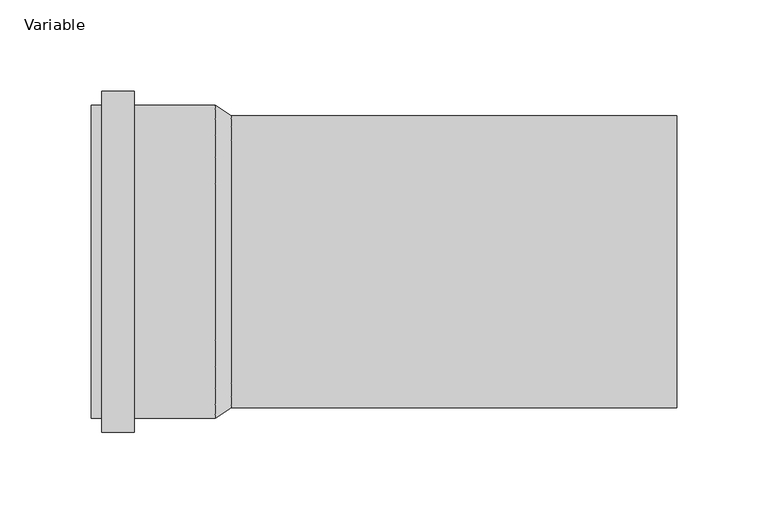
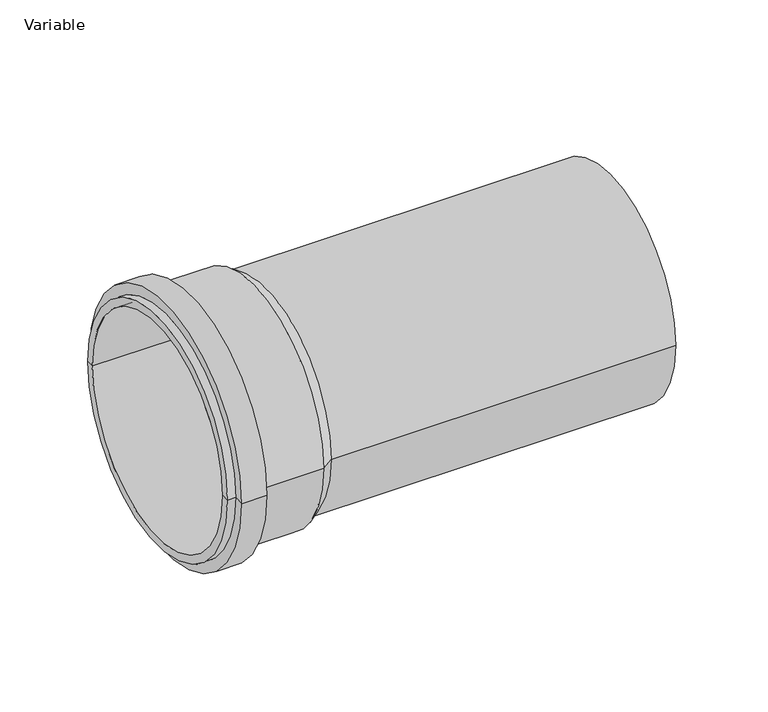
"""IFC4 building model written with IfcOpenShell, lengths in millimetres: pipe fitting geometry, AliaxisFR_Friaphon_LongCoupling_FR : Variable."""

from ifc_helpers import new_model, si_unit, point, frame, origin, origin_2d, place, context, project, spatial, polyline, circle_curve, trimmed, segment, composite_curve, outline, extrude, source, transform, mapped, element, save
from ifc_brep_helpers import plane_surface, cylinder_surface, revolved_surface, advanced_brep


def variable_43e88fef(model_context):
    return source(origin(), model_context, "Body", "SolidModel", [
        advanced_brep(
        [(-196.0, 85.8, 0.0), (-196.0, -85.8, 0.0), (-196.0, -80.0, 0.0), (-196.0, 80.0, 0.0), (-172.5, 93.5, 0.0), (-172.5, -93.5, 0.0), (-190.2, -93.5, 0.0), (-190.2, 93.5, 0.0), (-172.5, 85.8, 0.0), (-172.5, -85.8, 0.0), (-127.9, 85.8, 0.0), (-127.9, -85.8, 0.0), (-119.2, -80.0, 0.0), (-119.2, 80.0, 0.0), (-190.2, 85.8, 0.0), (-190.2, -85.8, 0.0)],
        [
            (0, 1, circle_curve(frame((-196.0, 0.0, 0.0), z_axis=(-1.0, 0.0, 0.0), x_axis=(0.0, -1.0, 0.0)), 85.8)),
            (1, 2),
            (2, 3, circle_curve(frame((-196.0, 0.0, 0.0), z_axis=(1.0, 0.0, 0.0), x_axis=(0.0, -1.0, 0.0)), 80.0)),
            (3, 0),
            (1, 0, circle_curve(frame((-196.0, 0.0, 0.0), z_axis=(-1.0, 0.0, 0.0), x_axis=(0.0, -1.0, 0.0)), 85.8)),
            (3, 2, circle_curve(frame((-196.0, 0.0, 0.0), z_axis=(1.0, 0.0, 0.0), x_axis=(0.0, -1.0, 0.0)), 80.0)),
            (4, 5, circle_curve(frame((-172.5, 0.0, 0.0), z_axis=(-1.0, 0.0, 0.0), x_axis=(0.0, -1.0, 0.0)), 93.5)),
            (5, 6),
            (6, 7, circle_curve(frame((-190.2, 0.0, 0.0), z_axis=(1.0, 0.0, 0.0), x_axis=(0.0, -1.0, 0.0)), 93.5)),
            (7, 4),
            (5, 4, circle_curve(frame((-172.5, 0.0, 0.0), z_axis=(-1.0, 0.0, 0.0), x_axis=(0.0, -1.0, 0.0)), 93.5)),
            (7, 6, circle_curve(frame((-190.2, 0.0, 0.0), z_axis=(1.0, 0.0, 0.0), x_axis=(0.0, -1.0, 0.0)), 93.5)),
            (8, 9, circle_curve(frame((-172.5, 0.0, 0.0), z_axis=(-1.0, 0.0, 0.0), x_axis=(0.0, -1.0, 0.0)), 85.8)),
            (9, 5),
            (4, 8),
            (9, 8, circle_curve(frame((-172.5, 0.0, 0.0), z_axis=(-1.0, 0.0, 0.0), x_axis=(0.0, -1.0, 0.0)), 85.8)),
            (10, 11, circle_curve(frame((-127.9, 0.0, 0.0), z_axis=(-1.0, 0.0, 0.0), x_axis=(0.0, -1.0, 0.0)), 85.8)),
            (11, 9),
            (8, 10),
            (11, 10, circle_curve(frame((-127.9, 0.0, 0.0), z_axis=(-1.0, 0.0, 0.0), x_axis=(0.0, -1.0, 0.0)), 85.8)),
            (2, 12),
            (12, 13, circle_curve(frame((-119.2, 0.0, 0.0), z_axis=(1.0, 0.0, 0.0), x_axis=(0.0, -1.0, 0.0)), 80.0)),
            (13, 3),
            (13, 12, circle_curve(frame((-119.2, 0.0, 0.0), z_axis=(1.0, 0.0, 0.0), x_axis=(0.0, -1.0, 0.0)), 80.0)),
            (12, 11),
            (10, 13),
            (14, 15, circle_curve(frame((-190.2, 0.0, 0.0), z_axis=(-1.0, 0.0, 0.0), x_axis=(0.0, -1.0, 0.0)), 85.8)),
            (15, 1),
            (0, 14),
            (15, 14, circle_curve(frame((-190.2, 0.0, 0.0), z_axis=(-1.0, 0.0, 0.0), x_axis=(0.0, -1.0, 0.0)), 85.8)),
            (6, 15),
            (14, 7),
        ],
        [
            plane_surface(frame((-196.0, 0.0, 0.0), z_axis=(-1.0, 0.0, 0.0), x_axis=(0.0, -1.0, 0.0))),
            cylinder_surface(frame((-119.2, 0.0, 0.0), z_axis=(1.0, 0.0, 0.0), x_axis=(0.0, -1.0, 0.0)), 93.5),
            plane_surface(frame((-172.5, 0.0, 0.0), z_axis=(1.0, 0.0, 0.0), x_axis=(0.0, -1.0, 0.0))),
            cylinder_surface(frame((-119.2, 0.0, 0.0), z_axis=(1.0, 0.0, 0.0), x_axis=(0.0, -1.0, 0.0)), 85.8),
            revolved_surface(polyline([(-119.2, -80.0, 0.0), (-196.0, -80.0, 0.0)]), (-119.2, 0.0, 0.0), (1.0, 0.0, 0.0)),
            revolved_surface(polyline([(-127.9, -85.8, 0.0), (-119.2, -80.0, 0.0)]), (-119.2, 0.0, 0.0), (1.0, 0.0, 0.0)),
            plane_surface(frame((-190.2, 0.0, 0.0), z_axis=(-1.0, 0.0, 0.0), x_axis=(0.0, -1.0, 0.0))),
        ],
        [
            (0, [[1, 2, 3, 4]]),
            (0, [[5, -4, 6, -2]]),
            (1, [[7, 8, 9, 10]]),
            (1, [[11, -10, 12, -8]]),
            (2, [[13, 14, -7, 15]]),
            (2, [[16, -15, -11, -14]]),
            (3, [[17, 18, -13, 19]]),
            (3, [[20, -19, -16, -18]]),
            (4, [[-3, 21, 22, 23]]),
            (4, [[-6, -23, 24, -21]]),
            (5, [[-22, 25, -17, 26]]),
            (5, [[-24, -26, -20, -25]]),
            (3, [[27, 28, -1, 29]]),
            (3, [[30, -29, -5, -28]]),
            (6, [[-9, 31, -27, 32]]),
            (6, [[-12, -32, -30, -31]]),
        ],
    ),
        extrude(outline(composite_curve([segment(trimmed(circle_curve(origin_2d(), 80.0), [point((-80.0, 0.0))], [point((80.0, 0.0))], False, "CARTESIAN"), True, "CONTINUOUS"), segment(trimmed(circle_curve(origin_2d(), 80.0), [point((80.0, 0.0))], [point((-80.0, 0.0))], False, "CARTESIAN"), True, "CONTINUOUS")], self_intersect=False)), frame((-125.0, 0.0, 0.0), z_axis=(1.0, 0.0, 0.0), x_axis=(0.0, 1.0, 0.0)), (0.0, 0.0, 1.0), 250.0),
    ])


if __name__ == "__main__":
    model = new_model("IFC4")
    model_context = context("Model", 3, world=origin())
    ifc_project = project(units=[si_unit("LENGTHUNIT", "METRE", prefix="MILLI")], contexts=[model_context])
    site = spatial("IfcSite", under=ifc_project)
    building = spatial("IfcBuilding", under=site)
    placement = place(None, origin())
    variable_shape = variable_43e88fef(model_context)
    element("IfcPipeFitting", 1, ObjectType="AliaxisFR_Friaphon_LongCoupling_FR : Variable", at=placement, inside=building, context=model_context, shape_type="MappedRepresentation", body=[
        mapped(variable_shape, transform((0.0, 0.0, 0.0), x_axis=(1.0, 0.0, 0.0), y_axis=(0.0, 1.0, 0.0), z_axis=(0.0, 0.0, 1.0))),
    ])
    save(model, "model.ifc")
